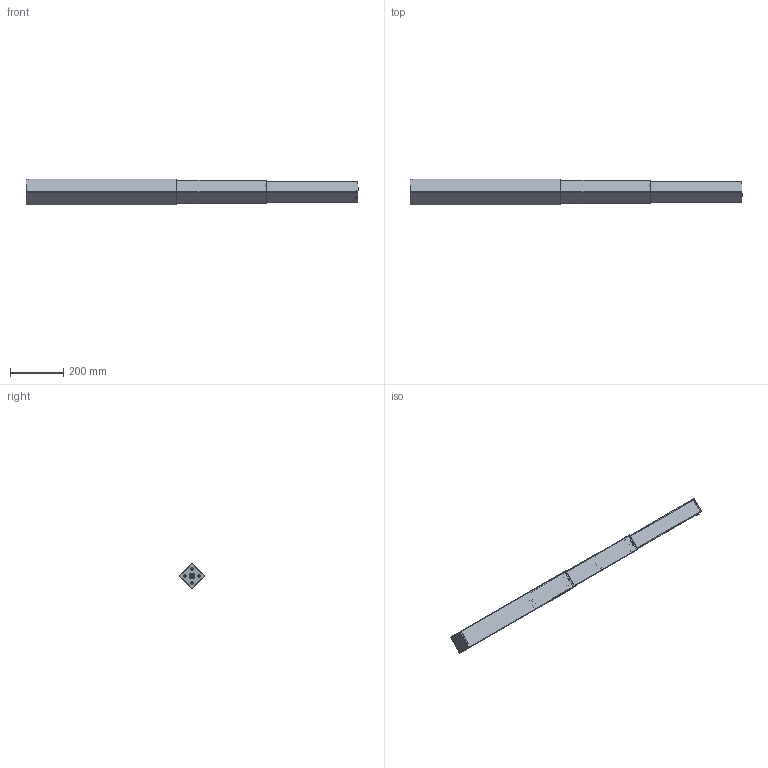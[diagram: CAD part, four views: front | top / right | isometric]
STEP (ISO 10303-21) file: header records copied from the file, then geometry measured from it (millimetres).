
FILE_DESCRIPTION (( 'STEP AP203' ), '1' );
FILE_NAME ('3D_TL20S.STEP', '2020-07-22T02:53:54', ( '' ), ( '' ), 'SwSTEP 2.0', 'SolidWorks 2015', '' );
FILE_SCHEMA (( 'CONFIG_CONTROL_DESIGN' ));
Length unit declared in the file: millimetre
Products named in the file (12): 3D_TL20S; 055-SR; ?鋤錨璃?-32317-2203-524-X-??奪??-B; ?鋤錨璃?-32317-2102-526-X-俋?奪??-B_預設_機器加工_; ?鉺嬇薛?-33410-049-覓霽??-A; TA20??庵牊; ?鉺嬇薛?-33405-006-覓霽?-D; TA20; ?鉺嬇薛?-33903-356-扷???-A; ?鋤錨璃?-32309-0310-L-??奪??(1.5)_預設_機器加工_; ?艘蘓ﾁｧ?-33105-084-９鎧懃ｦtﾅｰ-A; ?艘蘓ﾁｧ?-33105-083-?鎧懃ｦtﾅｰ-A
Assembly tree (13 placements, depth 4):
  3D_TL20S
    ?鋤錨璃?-32309-0310-L-??奪??(1.5)_預設_機器加工_
    ?鋤錨璃?-32317-2203-524-X-??奪??-B
    ?鉺嬇薛?-33410-049-覓霽??-A  x2
    ?鉺嬇薛?-33903-356-扷???-A  x2
    ?鋤錨璃?-32317-2102-526-X-俋?奪??-B_預設_機器加工_
    ?艘蘓ﾁｧ?-33105-083-?鎧懃ｦtﾅｰ-A
    ?艘蘓ﾁｧ?-33105-084-９鎧懃ｦtﾅｰ-A
    055-SR
    TA20
      TA20??庵牊
        ?鉺嬇薛?-33405-006-覓霽?-D
Bounding box: 1250.7 x 97.31 x 97.31 mm (x, y, z)
Volume: 656966.1 mm3; surface area: 855902.2 mm2
Topology: 26 solids, 26 shells, 1557 faces, 4038 edges, 2517 vertices
Faces by surface type: cylinder 632, plane 567, bspline 326, cone 32
Entity records: 54812 total; most frequent: CARTESIAN_POINT 18491, ORIENTED_EDGE 7746, DIRECTION 6846, EDGE_CURVE 3873, VERTEX_POINT 2407, AXIS2_PLACEMENT_3D 2355, LINE 2136, VECTOR 2136
